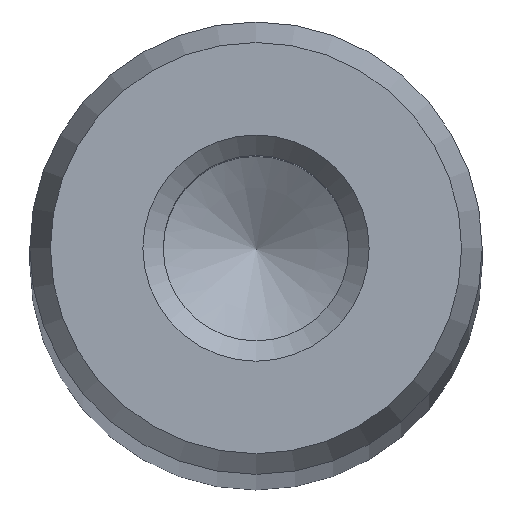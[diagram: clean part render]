
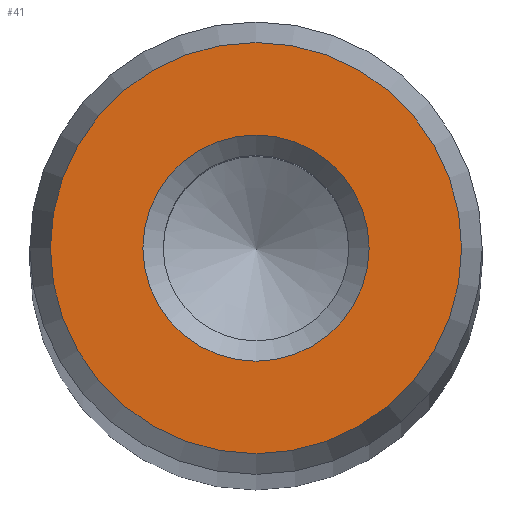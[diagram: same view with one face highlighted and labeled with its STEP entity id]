
A CAD part, top view. The second image highlights one B-rep face of the part: STEP entity #41.
In plain terms, the highlighted planar face has unit normal (0, 0, 1).
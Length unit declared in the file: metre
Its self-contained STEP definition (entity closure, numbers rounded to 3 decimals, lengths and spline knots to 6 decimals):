
#41 = ADVANCED_FACE( '', ( #88, #89 ), #90, .T. );
#88 = FACE_OUTER_BOUND( '', #147, .T. );
#89 = FACE_BOUND( '', #148, .T. );
#90 = PLANE( '', #149 );
#147 = EDGE_LOOP( '', ( #204 ) );
#148 = EDGE_LOOP( '', ( #205 ) );
#149 = AXIS2_PLACEMENT_3D( '', #206, #207, #208 );
#204 = ORIENTED_EDGE( '', *, *, #276, .T. );
#205 = ORIENTED_EDGE( '', *, *, #277, .T. );
#206 = CARTESIAN_POINT( '', ( 0., 0., 0.239 ) );
#207 = DIRECTION( '', ( 0., 0., 1. ) );
#208 = DIRECTION( '', ( 1., 0., 0. ) );
#276 = EDGE_CURVE( '', #307, #307, #308, .T. );
#277 = EDGE_CURVE( '', #309, #309, #310, .T. );
#307 = VERTEX_POINT( '', #344 );
#308 = CIRCLE( '', #345, 0.005454 );
#309 = VERTEX_POINT( '', #346 );
#310 = CIRCLE( '', #347, 0.003 );
#344 = CARTESIAN_POINT( '', ( 0.005454, 0., 0.239 ) );
#345 = AXIS2_PLACEMENT_3D( '', #382, #383, #384 );
#346 = CARTESIAN_POINT( '', ( 0.003, 0., 0.239 ) );
#347 = AXIS2_PLACEMENT_3D( '', #385, #386, #387 );
#382 = CARTESIAN_POINT( '', ( 0., 0., 0.239 ) );
#383 = DIRECTION( '', ( 0., 0., 1. ) );
#384 = DIRECTION( '', ( 1., 0., 0. ) );
#385 = CARTESIAN_POINT( '', ( 0., 0., 0.239 ) );
#386 = DIRECTION( '', ( 0., 0., -1. ) );
#387 = DIRECTION( '', ( 1., 0., 0. ) );
